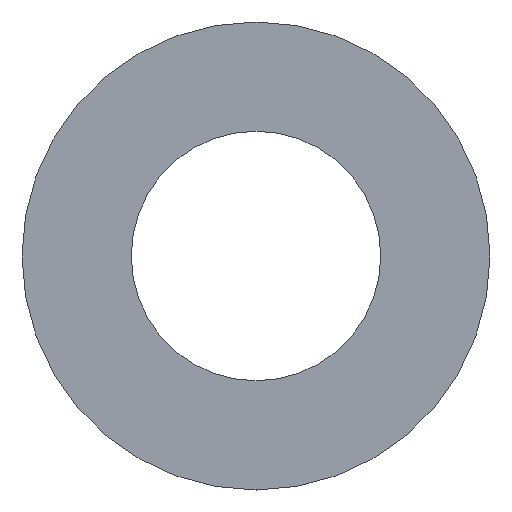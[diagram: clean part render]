
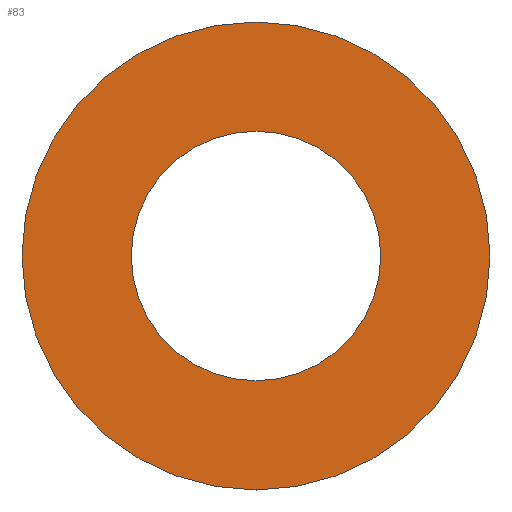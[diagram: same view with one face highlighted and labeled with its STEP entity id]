
A CAD part, front view. The second image highlights one B-rep face of the part: STEP entity #83.
In plain terms, the highlighted planar face has unit normal (0, -1, 0).
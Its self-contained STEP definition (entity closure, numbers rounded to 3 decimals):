
#22 = VERTEX_POINT('',#23);
#23 = CARTESIAN_POINT('',(1.5,0.,0.));
#39 = EDGE_CURVE('',#22,#22,#40,.T.);
#40 = CIRCLE('',#41,1.5);
#41 = AXIS2_PLACEMENT_3D('',#42,#43,#44);
#42 = CARTESIAN_POINT('',(0.,0.,0.));
#43 = DIRECTION('',(0.,1.,0.));
#44 = DIRECTION('',(1.,0.,0.));
#55 = VERTEX_POINT('',#56);
#56 = CARTESIAN_POINT('',(0.8,0.,0.));
#72 = EDGE_CURVE('',#55,#55,#73,.T.);
#73 = CIRCLE('',#74,0.8);
#74 = AXIS2_PLACEMENT_3D('',#75,#76,#77);
#75 = CARTESIAN_POINT('',(0.,0.,0.));
#76 = DIRECTION('',(0.,1.,0.));
#77 = DIRECTION('',(1.,0.,0.));
#83 = ADVANCED_FACE('',(#84,#87),#90,.F.);
#84 = FACE_BOUND('',#85,.F.);
#85 = EDGE_LOOP('',(#86));
#86 = ORIENTED_EDGE('',*,*,#39,.T.);
#87 = FACE_BOUND('',#88,.T.);
#88 = EDGE_LOOP('',(#89));
#89 = ORIENTED_EDGE('',*,*,#72,.T.);
#90 = PLANE('',#91);
#91 = AXIS2_PLACEMENT_3D('',#92,#93,#94);
#92 = CARTESIAN_POINT('',(0.,0.,
    0.));
#93 = DIRECTION('',(0.,1.,0.));
#94 = DIRECTION('',(1.,0.,0.));
